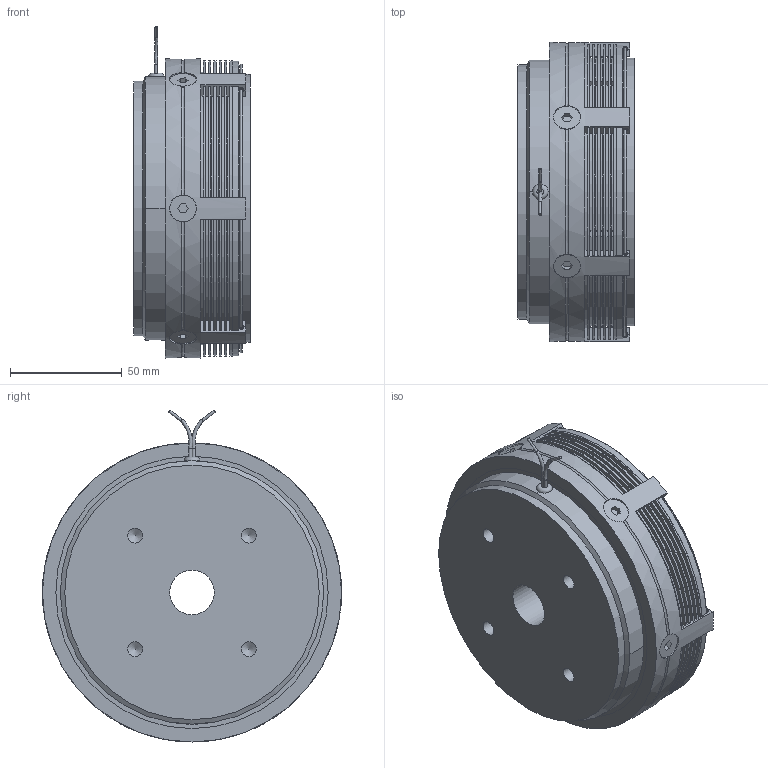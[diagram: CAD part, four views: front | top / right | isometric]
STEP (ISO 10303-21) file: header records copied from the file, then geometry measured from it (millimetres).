
FILE_DESCRIPTION(/* description */ (''),/* implementation_level */ '2;1');
FILE_NAME(/* name */ 'X:\INVENTOR\DISEGNI\05_Friz_Elettmag-Lam\05_06 EC_F\05_06_134_01 EC_F134\05_06_134_01 EC_F134@STEP.stp',/* time_stamp */ '2023-03-10T14:08:49+01:00',/* author */ ('alessio'),/* organization */ (''),/* preprocessor_version */ 'ST-DEVELOPER v18.1',/* originating_system */ 'Autodesk Inventor 2021',/* authorisation */ '');
FILE_SCHEMA (('AUTOMOTIVE_DESIGN { 1 0 10303 214 3 1 1 }'));
Products named in the file (1): 05_06_134_01 EC_F134
Bounding box: 52 x 134 x 148.72 mm (x, y, z)
Volume: 512444.1 mm3; surface area: 223340.7 mm2
Topology: 12 solids, 26 shells, 1877 faces, 5413 edges, 3555 vertices
Faces by surface type: cylinder 841, bspline 562, plane 426, cone 26, torus 22
Full cylindrical faces by diameter (mm): 1 x6, 1.154 x2, 1.5 x1, 2 x6, 3 x1, 4.917 x6, 6 x6, 6.5 x6, 6.647 x4, 8 x1, 20 x1, 63 x2, 84 x1, 85 x1, 104 x1, 105 x1, 114 x1, 120 x1, 134 x2
Entity records: 83453 total; most frequent: CARTESIAN_POINT 35846, ORIENTED_EDGE 10820, DIRECTION 8428, EDGE_CURVE 5410, VERTEX_POINT 3555, AXIS2_PLACEMENT_3D 3106, LINE 2216, VECTOR 2216
